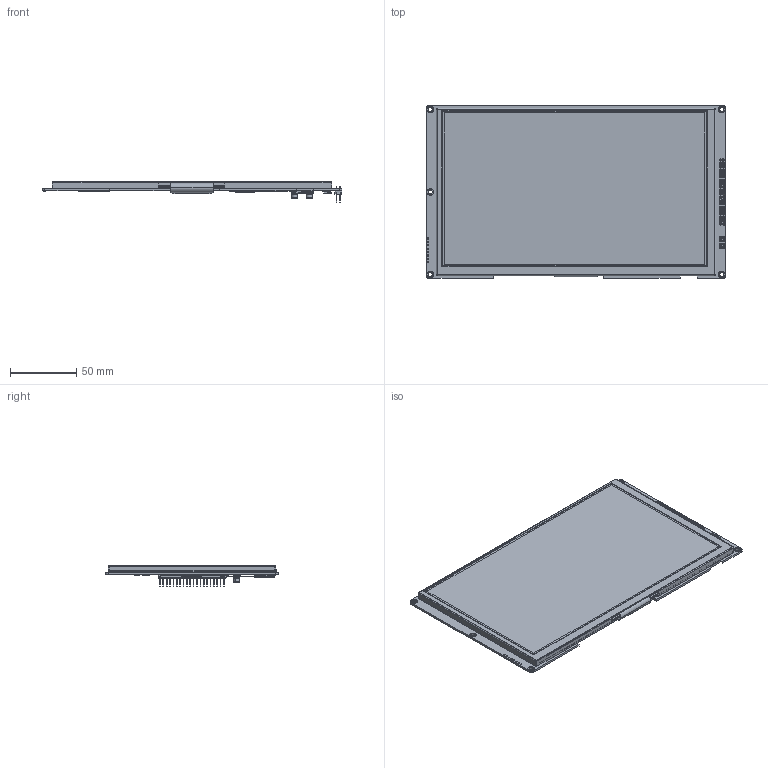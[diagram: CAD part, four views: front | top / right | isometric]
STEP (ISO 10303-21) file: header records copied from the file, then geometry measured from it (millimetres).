
FILE_DESCRIPTION (( 'STEP AP214' ), '1' );
FILE_NAME ('ER-TFT090-3-5798.STEP', '2026-02-02T08:57:17', ( '微软用户' ), ( '微软中国' ), 'SwSTEP 2.0', 'SolidWorks 2023', '' );
FILE_SCHEMA (( 'AUTOMOTIVE_DESIGN' ));
Length unit declared in the file: millimetre
Products named in the file (10): ER-TFT090-3-5798; ER-TFT090-3; 40 Pin 1.0mm Pitch Bottom Contact ZIF Connector; logo_z; ER-LT7683_Controller; 100uF 16V 6.3x7.7mm SMD Aluminum v3; pin header_2x20PIN; FPC Connector-50P; ER-microSD; PCBA
Assembly tree (9 placements, depth 2):
  ER-TFT090-3-5798
    PCBA
    ER-TFT090-3
    FPC Connector-50P
    40 Pin 1.0mm Pitch Bottom Contact ZIF Connector
    pin header_2x20PIN
    100uF 16V 6.3x7.7mm SMD Aluminum v3
    ER-microSD
    ER-LT7683_Controller
    logo_z
Bounding box: 226.1 x 130.5 x 15.4 mm (x, y, z)
Volume: 130393.5 mm3; surface area: 188941.5 mm2
Topology: 187 solids, 187 shells, 9890 faces, 27194 edges, 17825 vertices
Faces by surface type: plane 7488, bspline 1208, cylinder 1192, cone 2
Entity records: 440341 total; most frequent: CARTESIAN_POINT 110571, ORIENTED_EDGE 54388, DIRECTION 44218, EDGE_CURVE 27194, VECTOR 21858, LINE 21858, VERTEX_POINT 17825, AXIS2_PLACEMENT_3D 11180
